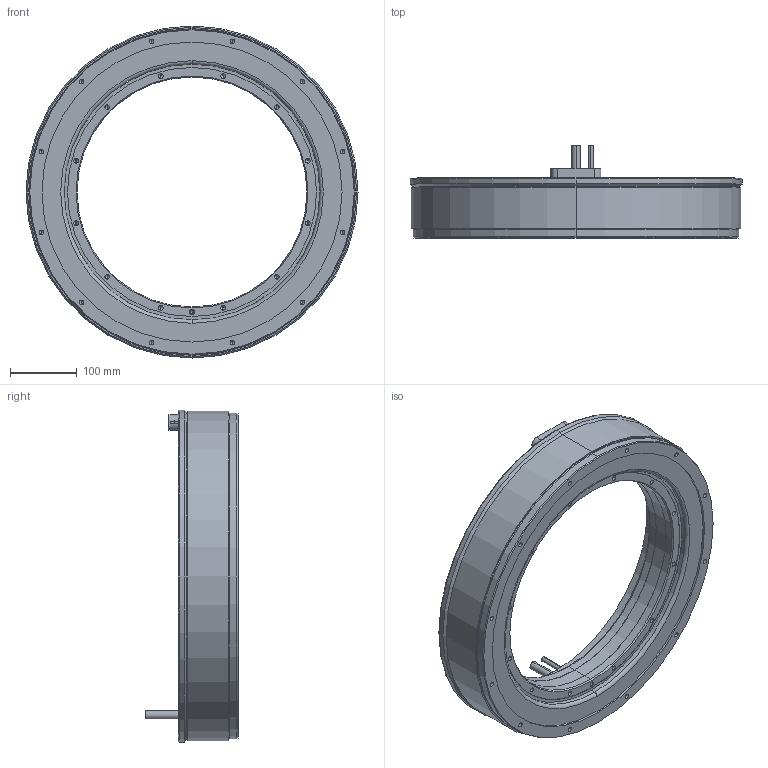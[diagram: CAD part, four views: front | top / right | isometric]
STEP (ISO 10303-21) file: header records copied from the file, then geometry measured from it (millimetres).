
FILE_DESCRIPTION (( 'STEP AP203' ), '1' );
FILE_NAME ('TM-2-D5-SA0(J0).STEP', '2023-06-06T03:16:33', ( '' ), ( '' ), 'SwSTEP 2.0', 'SolidWorks 2015', '' );
FILE_SCHEMA (( 'CONFIG_CONTROL_DESIGN' ));
Length unit declared in the file: millimetre
Products named in the file (3): TM-2-D5(J0)_Rotor; TM-2-D5-SA0(J0)_Stator; TM-2-D5-SA0(J0)
Assembly tree (2 placements, depth 2):
  TM-2-D5-SA0(J0)
    TM-2-D5-SA0(J0)_Stator
    TM-2-D5(J0)_Rotor
Bounding box: 498 x 139 x 498 mm (x, y, z)
Volume: 7696266.7 mm3; surface area: 593349.2 mm2
Topology: 2 solids, 2 shells, 343 faces, 816 edges, 445 vertices
Faces by surface type: cylinder 158, cone 126, plane 51, torus 8
Entity records: 9431 total; most frequent: DIRECTION 1760, CARTESIAN_POINT 1503, ORIENTED_EDGE 1420, EDGE_CURVE 710, AXIS2_PLACEMENT_3D 702, VERTEX_POINT 445, EDGE_LOOP 421, VECTOR 356
